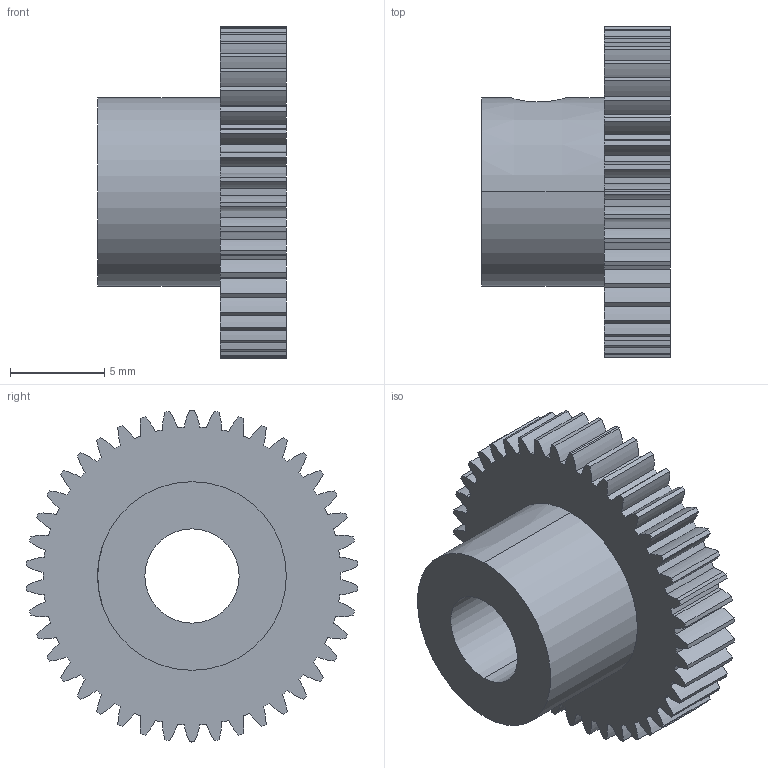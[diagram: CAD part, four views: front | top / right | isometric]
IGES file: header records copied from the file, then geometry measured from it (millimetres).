
Start section: 3D InterOp IGES (v. 2020 1.0.1), Spatial Corp. Copyright (c) 1999-2017.
Global section: file name: ssp04_w3_5_t42_bk.igs; native system: Spatial Corp.; preprocessor: 3D InterOp ACIS/IGES; author: TraceParts; organization: TraceParts S.A.; date: 20220624.032149; units: millimetre
Bounding box: 10 x 17.57 x 17.6 mm (x, y, z)
Surface area: 1135.7 mm2 (no closed solid volume)
Topology: 0 solids, 0 shells, 195 faces, 1140 edges, 1140 vertices
Faces by surface type: revolution 184, extrusion 11
